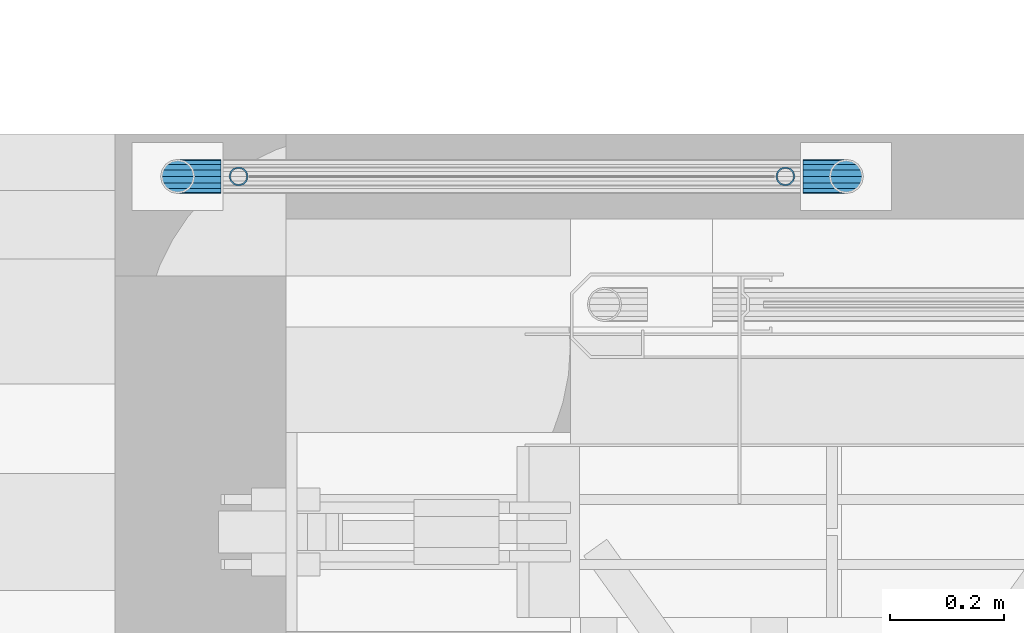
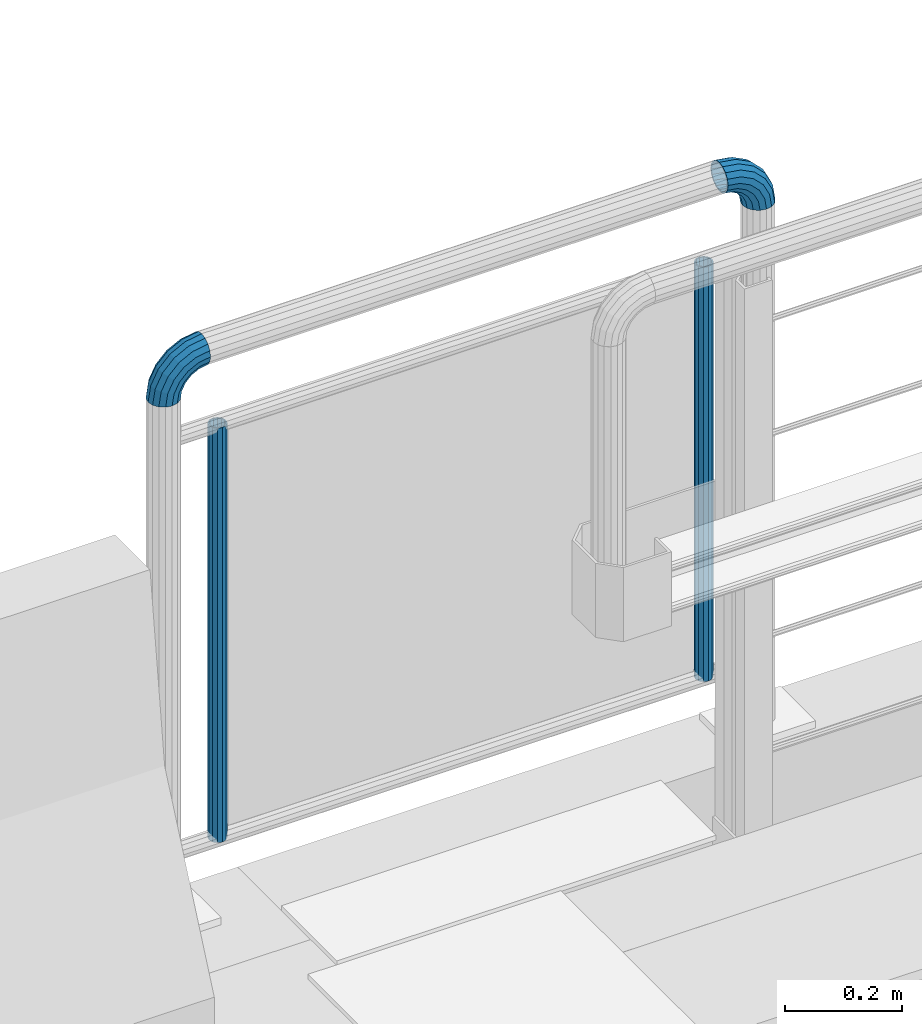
# One storey, part 22 of 31: 4 beams.
"""IFC2X3 building model written with IfcOpenShell, lengths in millimetres."""

from ifc_helpers import new_model, si_unit, frame, origin_with_axes, place, context, subcontext, project, spatial, faceted_brep, material, type_object, element, save


model = new_model("IFC2X3")

# Units and contexts
model_context = context("Model", 3, precision=1e-05, world=origin_with_axes())
body_context = subcontext(model_context, "Body", "Model", "MODEL_VIEW")
ifc_project = project(units=[si_unit("LENGTHUNIT", "METRE", prefix="MILLI"), si_unit("AREAUNIT", "SQUARE_METRE"), si_unit("VOLUMEUNIT", "CUBIC_METRE"), si_unit("MASSUNIT", "GRAM", prefix="KILO"), si_unit("TIMEUNIT", "SECOND"), si_unit("PLANEANGLEUNIT", "RADIAN"), si_unit("SOLIDANGLEUNIT", "STERADIAN"), si_unit("THERMODYNAMICTEMPERATUREUNIT", "DEGREE_CELSIUS"), si_unit("LUMINOUSINTENSITYUNIT", "LUMEN")], contexts=[model_context])

# Site, building, storey
site_placement = place(None, origin_with_axes())
site = spatial("IfcSite", under=ifc_project, at=site_placement, Name="Undefined", CompositionType="ELEMENT")
building_placement = place(site_placement, origin_with_axes())
building = spatial("IfcBuilding", under=site, at=building_placement, Name="Undefined", CompositionType="ELEMENT")
storey_placement = place(building_placement, origin_with_axes())
storey = spatial("IfcBuildingStorey", under=building, at=storey_placement, Name="Undefined", CompositionType="ELEMENT", Elevation=0.0)

# Beams
ifc_material = material(Name="STEEL/S355J2+N")
beam_type_1 = type_object("IfcBeamType", Name="CFCHS60.3*3.2", PredefinedType="NOTDEFINED")
beam_1_placement = place(storey_placement, frame((2486.0, 2925.0, 1169.85), z_axis=(-1.0, 0.0, 0.0), x_axis=(0.0, 0.0, -1.0)))
element("IfcBeam", 1, at=beam_1_placement, inside=storey, type_object=beam_type_1, material=ifc_material, Name="LKREKKVERK", context=body_context, shape_type="Brep", body=[
    faceted_brep([(11.5379054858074, -27.8549679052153, 0.0), (21.3192694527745, -21.3192694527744, 0.0), (23.9955348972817, -21.3192694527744, 16.8972750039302), (14.6929049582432, -27.8549679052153, 19.9198826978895), (31.7623597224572, -21.3192694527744, 32.1405270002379), (23.8490700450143, -27.8549679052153, 37.8898684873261), (43.8594729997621, -21.3192694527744, 44.2376402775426), (38.1101315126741, -27.8549679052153, 52.1509299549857), (59.10272499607, -21.3192694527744, 52.0044651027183), (56.0801173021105, -27.8549679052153, 61.3070950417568), (47.7010601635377, -11.5379054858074, 38.9501491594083), (61.1223668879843, -11.5379054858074, 45.7886465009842), (37.0498508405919, -11.5379054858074, 28.2989398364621), (30.2113534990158, -11.5379054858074, 14.8776331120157), (27.8549679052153, -11.5379054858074, 0.0), (30.1500000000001, 0.0, 0.0), (32.3940587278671, 0.0, 14.1684291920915), (38.9065708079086, 0.0, 26.9499538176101), (49.0500461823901, 0.0, 37.0934291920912), (61.8315708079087, 0.0, 43.6059412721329), (47.7010601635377, 11.5379054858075, 38.9501491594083), (61.1223668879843, 11.5379054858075, 45.7886465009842), (37.0498508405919, 11.5379054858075, 28.2989398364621), (30.2113534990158, 11.5379054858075, 14.8776331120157), (27.8549679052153, 11.5379054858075, 0.0), (21.3192694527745, 21.3192694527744, 0.0), (23.9955348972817, 21.3192694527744, 16.8972750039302), (31.7623597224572, 21.3192694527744, 32.1405270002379), (43.8594729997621, 21.3192694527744, 44.2376402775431), (59.10272499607, 21.3192694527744, 52.0044651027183), (38.1101315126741, 27.8549679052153, 52.1509299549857), (56.0801173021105, 27.8549679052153, 61.3070950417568), (23.8490700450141, 27.8549679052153, 37.8898684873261), (14.6929049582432, 27.8549679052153, 19.9198826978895), (11.5379054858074, 27.8549679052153, 0.0), (0.0, 30.15, 0.0), (3.71970476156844, 30.15, 23.485291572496), (14.514708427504, 30.15, 44.6716791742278), (31.3283208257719, 30.15, 61.485291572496), (52.514708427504, 30.15, 72.2802952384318), (24.54651013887, 27.8549679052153, 70.8196531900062), (48.9492995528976, 27.8549679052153, 83.2534954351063), (5.18034680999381, 27.8549679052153, 51.45348986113), (-7.25349543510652, 27.8549679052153, 27.0507004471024), (-11.5379054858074, 27.8549679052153, 0.0), (-21.3192694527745, 21.3192694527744, 0.0), (-16.556125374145, 21.3192694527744, 30.0733081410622), (-2.73294286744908, 21.3192694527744, 57.2028313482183), (18.7971686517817, 21.3192694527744, 78.7329428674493), (45.9266918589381, 21.3192694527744, 92.5561253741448), (14.9555814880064, 11.5379054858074, 84.0204339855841), (43.9070499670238, 11.5379054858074, 98.7719439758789), (-8.02043398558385, 11.5379054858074, 61.0444185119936), (-22.7719439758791, 11.5379054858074, 32.0929500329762), (-27.8549679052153, 11.5379054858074, 0.0), (-30.1500000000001, 0.0, 0.0), (-24.9546492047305, 0.0, 32.8021539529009), (-9.8771539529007, 0.0, 62.3934045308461), (13.6065954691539, 0.0, 85.8771539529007), (43.1978460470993, 0.0, 100.954649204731), (14.9555814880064, -11.5379054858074, 84.0204339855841), (43.9070499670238, -11.5379054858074, 98.7719439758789), (-8.02043398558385, -11.5379054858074, 61.0444185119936), (-22.7719439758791, -11.5379054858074, 32.0929500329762), (-27.8549679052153, -11.5379054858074, 0.0), (-21.3192694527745, -21.3192694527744, 0.0), (-16.556125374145, -21.3192694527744, 30.0733081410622), (-2.73294286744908, -21.3192694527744, 57.2028313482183), (18.7971686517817, -21.3192694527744, 78.7329428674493), (45.9266918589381, -21.3192694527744, 92.5561253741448), (24.54651013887, -27.8549679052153, 70.8196531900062), (48.9492995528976, -27.8549679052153, 83.2534954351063), (5.18034680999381, -27.8549679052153, 51.45348986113), (-7.25349543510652, -27.8549679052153, 27.0507004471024), (-11.5379054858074, -27.8549679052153, 0.0), (0.0, -30.15, 0.0), (3.71970476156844, -30.15, 23.485291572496), (14.514708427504, -30.15, 44.6716791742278), (31.3283208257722, -30.15, 61.485291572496), (52.514708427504, -30.15, 72.2802952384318), (76.0, -30.15, 76.0), (76.0, -27.8549679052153, 87.5379054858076), (76.0, -21.3192694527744, 97.3192694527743), (76.0, -11.5379054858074, 103.854967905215), (76.0, 0.0, 106.15), (76.0, 11.5379054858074, 103.854967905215), (76.0, 21.3192694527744, 97.3192694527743), (76.0, 27.8549679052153, 87.5379054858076), (76.0, 30.15, 76.0), (76.0, 27.8549679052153, 64.4620945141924), (76.0, 21.3192694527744, 54.6807305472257), (76.0, 11.5379054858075, 48.1450320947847), (76.0, 0.0, 45.8499999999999), (76.0, -11.5379054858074, 48.1450320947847), (76.0, -21.3192694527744, 54.6807305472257), (76.0, -27.8549679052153, 64.4620945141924), (10.3133185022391, -24.8985534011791, 0.0), (19.0565277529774, -19.0565277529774, 0.0), (24.8985534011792, -10.3133185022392, 0.0), (26.95, 0.0, 0.0), (24.8985534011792, 10.3133185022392, 0.0), (19.0565277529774, 19.0565277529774, 0.0), (10.3133185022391, 24.8985534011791, 0.0), (0.0, 26.95, 0.0), (-10.3133185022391, 24.8985534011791, 0.0), (-19.0565277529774, 19.0565277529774, 0.0), (-24.8985534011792, 10.3133185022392, 0.0), (-26.95, 0.0, 0.0), (-24.8985534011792, -10.3133185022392, 0.0), (-19.0565277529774, -19.0565277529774, 0.0), (-10.3133185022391, -24.8985534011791, 0.0), (0.0, -26.95, 0.0), (3.71970476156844, -26.95, 23.485291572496), (13.5282535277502, -24.8985534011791, 20.2983008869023), (21.8435396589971, -19.0565277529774, 17.5965006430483), (27.3996362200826, -10.3133185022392, 15.7912154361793), (29.3506778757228, 0.0, 15.1572835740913), (27.3996362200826, 10.3133185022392, 15.7912154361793), (21.8435396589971, 19.0565277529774, 17.5965006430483), (13.5282535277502, 24.8985534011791, 20.2983008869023), (3.71970476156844, 26.95, 23.485291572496), (-6.08884400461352, 24.8985534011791, 26.6722822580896), (-14.4041301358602, 19.0565277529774, 29.374082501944), (-19.9602266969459, 10.3133185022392, 31.1793677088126), (-21.9112683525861, 0.0, 31.8132995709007), (-19.9602266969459, -10.3133185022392, 31.1793677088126), (-14.4041301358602, -19.0565277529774, 29.374082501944), (-6.08884400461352, -24.8985534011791, 26.6722822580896), (6.17105849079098, -24.8985534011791, 50.7336956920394), (14.514708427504, -26.95, 44.6716791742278), (22.8583583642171, -24.8985534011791, 38.6096626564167), (29.9317632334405, -19.0565277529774, 33.4705332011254), (34.6580612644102, -10.3133185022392, 30.0366766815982), (36.3177164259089, 0.0, 28.8308666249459), (34.6580612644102, 10.3133185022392, 30.0366766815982), (29.9317632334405, 19.0565277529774, 33.4705332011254), (22.8583583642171, 24.8985534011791, 38.6096626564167), (14.514708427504, 26.95, 44.6716791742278), (6.17105849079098, 24.8985534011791, 50.7336956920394), (-0.90234637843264, 19.0565277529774, 55.8728251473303), (-5.62864440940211, 10.3133185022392, 59.3066816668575), (-7.28829957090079, 0.0, 60.5124917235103), (-5.62864440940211, -10.3133185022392, 59.3066816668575), (-0.90234637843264, -19.0565277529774, 55.8728251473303), (20.1271748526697, -19.0565277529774, 76.9023463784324), (25.2663043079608, -24.8985534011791, 69.828941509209), (31.3283208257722, -26.95, 61.485291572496), (37.3903373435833, -24.8985534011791, 53.1416416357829), (42.5294667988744, -19.0565277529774, 46.0682367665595), (45.9633233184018, -10.3133185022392, 41.3419387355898), (47.1691333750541, 0.0, 39.6822835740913), (45.9633233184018, 10.3133185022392, 41.3419387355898), (42.5294667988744, 19.0565277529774, 46.0682367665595), (37.3903373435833, 24.8985534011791, 53.1416416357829), (31.3283208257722, 26.95, 61.485291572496), (25.2663043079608, 24.8985534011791, 69.828941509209), (20.1271748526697, 19.0565277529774, 76.9023463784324), (16.6933183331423, 10.3133185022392, 81.6286444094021), (15.48750827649, 0.0, 83.288299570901), (16.6933183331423, -10.3133185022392, 81.6286444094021), (44.8206322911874, -10.3133185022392, 95.9602266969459), (46.6259174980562, -19.0565277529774, 90.4041301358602), (49.3277177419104, -24.8985534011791, 82.0888440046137), (52.514708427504, -26.95, 72.2802952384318), (55.7016991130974, -24.8985534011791, 62.4717464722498), (58.4034993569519, -19.0565277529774, 54.1564603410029), (60.2087845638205, -10.3133185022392, 48.6003637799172), (60.8427164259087, 0.0, 46.6493221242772), (60.2087845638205, 10.3133185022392, 48.6003637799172), (58.4034993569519, 19.0565277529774, 54.1564603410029), (55.7016991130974, 24.8985534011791, 62.4717464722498), (52.514708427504, 26.95, 72.2802952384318), (49.3277177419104, 24.8985534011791, 82.0888440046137), (46.6259174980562, 19.0565277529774, 90.4041301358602), (44.8206322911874, 10.3133185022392, 95.9602266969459), (44.1867004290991, 0.0, 97.9112683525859), (76.0, 0.0, 102.95), (76.0, -10.3133185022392, 100.898553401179), (76.0, -19.0565277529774, 95.0565277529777), (76.0, -24.8985534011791, 86.3133185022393), (76.0, -26.95, 76.0), (76.0, -24.8985534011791, 65.6866814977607), (76.0, -19.0565277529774, 56.9434722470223), (76.0, -10.3133185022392, 51.101446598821), (76.0, 0.0, 49.0500000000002), (76.0, 10.3133185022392, 51.101446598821), (76.0, 19.0565277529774, 56.9434722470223), (76.0, 24.8985534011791, 65.6866814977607), (76.0, 26.95, 76.0), (76.0, 24.8985534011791, 86.3133185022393), (76.0, 19.0565277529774, 95.0565277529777), (76.0, 10.3133185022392, 100.898553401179)], [[[0, 1, 2, 3]], [[3, 2, 4, 5]], [[5, 4, 6, 7]], [[7, 6, 8, 9]], [[6, 10, 11, 8]], [[4, 12, 10, 6]], [[2, 13, 12, 4]], [[1, 14, 13, 2]], [[14, 15, 16, 13]], [[13, 16, 17, 12]], [[12, 17, 18, 10]], [[10, 18, 19, 11]], [[18, 20, 21, 19]], [[17, 22, 20, 18]], [[16, 23, 22, 17]], [[15, 24, 23, 16]], [[24, 25, 26, 23]], [[23, 26, 27, 22]], [[22, 27, 28, 20]], [[20, 28, 29, 21]], [[28, 30, 31, 29]], [[27, 32, 30, 28]], [[26, 33, 32, 27]], [[25, 34, 33, 26]], [[34, 35, 36, 33]], [[33, 36, 37, 32]], [[32, 37, 38, 30]], [[30, 38, 39, 31]], [[38, 40, 41, 39]], [[37, 42, 40, 38]], [[36, 43, 42, 37]], [[35, 44, 43, 36]], [[44, 45, 46, 43]], [[43, 46, 47, 42]], [[42, 47, 48, 40]], [[40, 48, 49, 41]], [[48, 50, 51, 49]], [[47, 52, 50, 48]], [[46, 53, 52, 47]], [[45, 54, 53, 46]], [[54, 55, 56, 53]], [[53, 56, 57, 52]], [[52, 57, 58, 50]], [[50, 58, 59, 51]], [[58, 60, 61, 59]], [[57, 62, 60, 58]], [[56, 63, 62, 57]], [[55, 64, 63, 56]], [[64, 65, 66, 63]], [[63, 66, 67, 62]], [[62, 67, 68, 60]], [[60, 68, 69, 61]], [[68, 70, 71, 69]], [[67, 72, 70, 68]], [[66, 73, 72, 67]], [[65, 74, 73, 66]], [[74, 75, 76, 73]], [[73, 76, 77, 72]], [[72, 77, 78, 70]], [[70, 78, 79, 71]], [[71, 79, 80, 81]], [[69, 71, 81, 82]], [[61, 69, 82, 83]], [[59, 61, 83, 84]], [[51, 59, 84, 85]], [[49, 51, 85, 86]], [[41, 49, 86, 87]], [[39, 41, 87, 88]], [[31, 39, 88, 89]], [[29, 31, 89, 90]], [[21, 29, 90, 91]], [[19, 21, 91, 92]], [[11, 19, 92, 93]], [[8, 11, 93, 94]], [[9, 8, 94, 95]], [[79, 9, 95, 80]], [[78, 7, 9, 79]], [[77, 5, 7, 78]], [[76, 3, 5, 77]], [[75, 0, 3, 76]], [[74, 65, 64, 55, 54, 45, 44, 35, 34, 25, 24, 15, 14, 1, 0, 75], [96, 97, 98, 99, 100, 101, 102, 103, 104, 105, 106, 107, 108, 109, 110, 111]], [[96, 111, 112, 113]], [[97, 96, 113, 114]], [[98, 97, 114, 115]], [[99, 98, 115, 116]], [[100, 99, 116, 117]], [[101, 100, 117, 118]], [[102, 101, 118, 119]], [[103, 102, 119, 120]], [[104, 103, 120, 121]], [[105, 104, 121, 122]], [[106, 105, 122, 123]], [[107, 106, 123, 124]], [[108, 107, 124, 125]], [[109, 108, 125, 126]], [[110, 109, 126, 127]], [[111, 110, 127, 112]], [[112, 127, 128, 129]], [[113, 112, 129, 130]], [[114, 113, 130, 131]], [[115, 114, 131, 132]], [[116, 115, 132, 133]], [[117, 116, 133, 134]], [[118, 117, 134, 135]], [[119, 118, 135, 136]], [[120, 119, 136, 137]], [[121, 120, 137, 138]], [[122, 121, 138, 139]], [[123, 122, 139, 140]], [[124, 123, 140, 141]], [[125, 124, 141, 142]], [[126, 125, 142, 143]], [[127, 126, 143, 128]], [[128, 143, 144, 145]], [[129, 128, 145, 146]], [[130, 129, 146, 147]], [[131, 130, 147, 148]], [[132, 131, 148, 149]], [[133, 132, 149, 150]], [[134, 133, 150, 151]], [[135, 134, 151, 152]], [[136, 135, 152, 153]], [[137, 136, 153, 154]], [[138, 137, 154, 155]], [[139, 138, 155, 156]], [[140, 139, 156, 157]], [[141, 140, 157, 158]], [[142, 141, 158, 159]], [[143, 142, 159, 144]], [[144, 159, 160, 161]], [[145, 144, 161, 162]], [[146, 145, 162, 163]], [[147, 146, 163, 164]], [[148, 147, 164, 165]], [[149, 148, 165, 166]], [[150, 149, 166, 167]], [[151, 150, 167, 168]], [[152, 151, 168, 169]], [[153, 152, 169, 170]], [[154, 153, 170, 171]], [[155, 154, 171, 172]], [[156, 155, 172, 173]], [[157, 156, 173, 174]], [[158, 157, 174, 175]], [[159, 158, 175, 160]], [[160, 175, 176, 177]], [[161, 160, 177, 178]], [[162, 161, 178, 179]], [[163, 162, 179, 180]], [[164, 163, 180, 181]], [[165, 164, 181, 182]], [[166, 165, 182, 183]], [[167, 166, 183, 184]], [[168, 167, 184, 185]], [[169, 168, 185, 186]], [[170, 169, 186, 187]], [[171, 170, 187, 188]], [[172, 171, 188, 189]], [[173, 172, 189, 190]], [[174, 173, 190, 191]], [[175, 174, 191, 176]], [[82, 81, 80, 95, 94, 93, 92, 91, 90, 89, 88, 87, 86, 85, 84, 83], [190, 189, 188, 187, 186, 185, 184, 183, 182, 181, 180, 179, 178, 177, 176, 191]]]),
])
beam_2_placement = place(storey_placement, frame((3509.15, 2925.0, 1169.85), z_axis=(1.0, 0.0, 0.0), x_axis=(0.0, 0.0, -1.0)))
element("IfcBeam", 2, at=beam_2_placement, inside=storey, type_object=beam_type_1, material=ifc_material, Name="LKREKKVERK", context=body_context, shape_type="Brep", body=[
    faceted_brep([(11.5379054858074, -27.8549679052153, 0.0), (21.3192694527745, -21.3192694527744, 0.0), (23.9955348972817, -21.3192694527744, 16.8972750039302), (14.6929049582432, -27.8549679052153, 19.9198826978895), (31.7623597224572, -21.3192694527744, 32.1405270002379), (23.8490700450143, -27.8549679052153, 37.8898684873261), (43.8594729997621, -21.3192694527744, 44.2376402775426), (38.1101315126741, -27.8549679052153, 52.1509299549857), (59.10272499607, -21.3192694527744, 52.0044651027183), (56.0801173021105, -27.8549679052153, 61.3070950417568), (47.7010601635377, -11.5379054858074, 38.9501491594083), (61.1223668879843, -11.5379054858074, 45.7886465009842), (37.0498508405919, -11.5379054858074, 28.2989398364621), (30.2113534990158, -11.5379054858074, 14.8776331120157), (27.8549679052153, -11.5379054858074, 0.0), (30.1500000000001, 0.0, 0.0), (32.3940587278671, 0.0, 14.1684291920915), (38.9065708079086, 0.0, 26.9499538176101), (49.0500461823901, 0.0, 37.0934291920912), (61.8315708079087, 0.0, 43.6059412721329), (47.7010601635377, 11.5379054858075, 38.9501491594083), (61.1223668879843, 11.5379054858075, 45.7886465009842), (37.0498508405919, 11.5379054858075, 28.2989398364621), (30.2113534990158, 11.5379054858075, 14.8776331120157), (27.8549679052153, 11.5379054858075, 0.0), (21.3192694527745, 21.3192694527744, 0.0), (23.9955348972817, 21.3192694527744, 16.8972750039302), (31.7623597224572, 21.3192694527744, 32.1405270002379), (43.8594729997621, 21.3192694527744, 44.2376402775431), (59.10272499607, 21.3192694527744, 52.0044651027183), (38.1101315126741, 27.8549679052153, 52.1509299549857), (56.0801173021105, 27.8549679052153, 61.3070950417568), (23.8490700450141, 27.8549679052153, 37.8898684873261), (14.6929049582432, 27.8549679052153, 19.9198826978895), (11.5379054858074, 27.8549679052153, 0.0), (0.0, 30.15, 0.0), (3.71970476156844, 30.15, 23.485291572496), (14.514708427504, 30.15, 44.6716791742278), (31.3283208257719, 30.15, 61.485291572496), (52.514708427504, 30.15, 72.2802952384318), (24.54651013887, 27.8549679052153, 70.8196531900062), (48.9492995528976, 27.8549679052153, 83.2534954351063), (5.18034680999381, 27.8549679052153, 51.45348986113), (-7.25349543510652, 27.8549679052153, 27.0507004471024), (-11.5379054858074, 27.8549679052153, 0.0), (-21.3192694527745, 21.3192694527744, 0.0), (-16.556125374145, 21.3192694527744, 30.0733081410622), (-2.73294286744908, 21.3192694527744, 57.2028313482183), (18.7971686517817, 21.3192694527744, 78.7329428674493), (45.9266918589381, 21.3192694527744, 92.5561253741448), (14.9555814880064, 11.5379054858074, 84.0204339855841), (43.9070499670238, 11.5379054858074, 98.7719439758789), (-8.02043398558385, 11.5379054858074, 61.0444185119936), (-22.7719439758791, 11.5379054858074, 32.0929500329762), (-27.8549679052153, 11.5379054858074, 0.0), (-30.1500000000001, 0.0, 0.0), (-24.9546492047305, 0.0, 32.8021539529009), (-9.8771539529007, 0.0, 62.3934045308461), (13.6065954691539, 0.0, 85.8771539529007), (43.1978460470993, 0.0, 100.954649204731), (14.9555814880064, -11.5379054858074, 84.0204339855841), (43.9070499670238, -11.5379054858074, 98.7719439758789), (-8.02043398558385, -11.5379054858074, 61.0444185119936), (-22.7719439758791, -11.5379054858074, 32.0929500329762), (-27.8549679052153, -11.5379054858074, 0.0), (-21.3192694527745, -21.3192694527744, 0.0), (-16.556125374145, -21.3192694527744, 30.0733081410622), (-2.73294286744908, -21.3192694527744, 57.2028313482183), (18.7971686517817, -21.3192694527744, 78.7329428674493), (45.9266918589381, -21.3192694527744, 92.5561253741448), (24.54651013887, -27.8549679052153, 70.8196531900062), (48.9492995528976, -27.8549679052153, 83.2534954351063), (5.18034680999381, -27.8549679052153, 51.45348986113), (-7.25349543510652, -27.8549679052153, 27.0507004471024), (-11.5379054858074, -27.8549679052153, 0.0), (0.0, -30.15, 0.0), (3.71970476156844, -30.15, 23.485291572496), (14.514708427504, -30.15, 44.6716791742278), (31.3283208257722, -30.15, 61.485291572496), (52.514708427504, -30.15, 72.2802952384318), (76.0, -30.15, 76.0), (76.0, -27.8549679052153, 87.5379054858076), (76.0, -21.3192694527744, 97.3192694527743), (76.0, -11.5379054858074, 103.854967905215), (76.0, 0.0, 106.15), (76.0, 11.5379054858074, 103.854967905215), (76.0, 21.3192694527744, 97.3192694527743), (76.0, 27.8549679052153, 87.5379054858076), (76.0, 30.15, 76.0), (76.0, 27.8549679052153, 64.4620945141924), (76.0, 21.3192694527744, 54.6807305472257), (76.0, 11.5379054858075, 48.1450320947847), (76.0, 0.0, 45.8499999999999), (76.0, -11.5379054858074, 48.1450320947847), (76.0, -21.3192694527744, 54.6807305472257), (76.0, -27.8549679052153, 64.4620945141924), (10.3133185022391, -24.8985534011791, 0.0), (19.0565277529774, -19.0565277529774, 0.0), (24.8985534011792, -10.3133185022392, 0.0), (26.95, 0.0, 0.0), (24.8985534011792, 10.3133185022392, 0.0), (19.0565277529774, 19.0565277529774, 0.0), (10.3133185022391, 24.8985534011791, 0.0), (0.0, 26.95, 0.0), (-10.3133185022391, 24.8985534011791, 0.0), (-19.0565277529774, 19.0565277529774, 0.0), (-24.8985534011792, 10.3133185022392, 0.0), (-26.95, 0.0, 0.0), (-24.8985534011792, -10.3133185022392, 0.0), (-19.0565277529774, -19.0565277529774, 0.0), (-10.3133185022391, -24.8985534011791, 0.0), (0.0, -26.95, 0.0), (3.71970476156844, -26.95, 23.485291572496), (13.5282535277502, -24.8985534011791, 20.2983008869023), (21.8435396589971, -19.0565277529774, 17.5965006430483), (27.3996362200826, -10.3133185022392, 15.7912154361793), (29.3506778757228, 0.0, 15.1572835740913), (27.3996362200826, 10.3133185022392, 15.7912154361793), (21.8435396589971, 19.0565277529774, 17.5965006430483), (13.5282535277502, 24.8985534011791, 20.2983008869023), (3.71970476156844, 26.95, 23.485291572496), (-6.08884400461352, 24.8985534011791, 26.6722822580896), (-14.4041301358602, 19.0565277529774, 29.374082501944), (-19.9602266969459, 10.3133185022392, 31.1793677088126), (-21.9112683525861, 0.0, 31.8132995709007), (-19.9602266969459, -10.3133185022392, 31.1793677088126), (-14.4041301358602, -19.0565277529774, 29.374082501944), (-6.08884400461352, -24.8985534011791, 26.6722822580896), (6.17105849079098, -24.8985534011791, 50.7336956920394), (14.514708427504, -26.95, 44.6716791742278), (22.8583583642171, -24.8985534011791, 38.6096626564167), (29.9317632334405, -19.0565277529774, 33.4705332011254), (34.6580612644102, -10.3133185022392, 30.0366766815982), (36.3177164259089, 0.0, 28.8308666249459), (34.6580612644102, 10.3133185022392, 30.0366766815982), (29.9317632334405, 19.0565277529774, 33.4705332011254), (22.8583583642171, 24.8985534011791, 38.6096626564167), (14.514708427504, 26.95, 44.6716791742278), (6.17105849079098, 24.8985534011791, 50.7336956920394), (-0.90234637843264, 19.0565277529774, 55.8728251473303), (-5.62864440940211, 10.3133185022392, 59.3066816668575), (-7.28829957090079, 0.0, 60.5124917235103), (-5.62864440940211, -10.3133185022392, 59.3066816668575), (-0.90234637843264, -19.0565277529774, 55.8728251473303), (20.1271748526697, -19.0565277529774, 76.9023463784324), (25.2663043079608, -24.8985534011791, 69.828941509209), (31.3283208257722, -26.95, 61.485291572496), (37.3903373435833, -24.8985534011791, 53.1416416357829), (42.5294667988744, -19.0565277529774, 46.0682367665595), (45.9633233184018, -10.3133185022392, 41.3419387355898), (47.1691333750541, 0.0, 39.6822835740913), (45.9633233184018, 10.3133185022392, 41.3419387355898), (42.5294667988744, 19.0565277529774, 46.0682367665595), (37.3903373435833, 24.8985534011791, 53.1416416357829), (31.3283208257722, 26.95, 61.485291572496), (25.2663043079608, 24.8985534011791, 69.828941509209), (20.1271748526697, 19.0565277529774, 76.9023463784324), (16.6933183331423, 10.3133185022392, 81.6286444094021), (15.48750827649, 0.0, 83.288299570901), (16.6933183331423, -10.3133185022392, 81.6286444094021), (44.8206322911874, -10.3133185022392, 95.9602266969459), (46.6259174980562, -19.0565277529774, 90.4041301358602), (49.3277177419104, -24.8985534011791, 82.0888440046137), (52.514708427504, -26.95, 72.2802952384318), (55.7016991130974, -24.8985534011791, 62.4717464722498), (58.4034993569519, -19.0565277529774, 54.1564603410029), (60.2087845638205, -10.3133185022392, 48.6003637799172), (60.8427164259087, 0.0, 46.6493221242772), (60.2087845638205, 10.3133185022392, 48.6003637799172), (58.4034993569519, 19.0565277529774, 54.1564603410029), (55.7016991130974, 24.8985534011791, 62.4717464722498), (52.514708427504, 26.95, 72.2802952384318), (49.3277177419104, 24.8985534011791, 82.0888440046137), (46.6259174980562, 19.0565277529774, 90.4041301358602), (44.8206322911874, 10.3133185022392, 95.9602266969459), (44.1867004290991, 0.0, 97.9112683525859), (76.0, 0.0, 102.95), (76.0, -10.3133185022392, 100.898553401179), (76.0, -19.0565277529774, 95.0565277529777), (76.0, -24.8985534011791, 86.3133185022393), (76.0, -26.95, 76.0), (76.0, -24.8985534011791, 65.6866814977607), (76.0, -19.0565277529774, 56.9434722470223), (76.0, -10.3133185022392, 51.101446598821), (76.0, 0.0, 49.0500000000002), (76.0, 10.3133185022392, 51.101446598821), (76.0, 19.0565277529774, 56.9434722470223), (76.0, 24.8985534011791, 65.6866814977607), (76.0, 26.95, 76.0), (76.0, 24.8985534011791, 86.3133185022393), (76.0, 19.0565277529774, 95.0565277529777), (76.0, 10.3133185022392, 100.898553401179)], [[[0, 1, 2, 3]], [[3, 2, 4, 5]], [[5, 4, 6, 7]], [[7, 6, 8, 9]], [[6, 10, 11, 8]], [[4, 12, 10, 6]], [[2, 13, 12, 4]], [[1, 14, 13, 2]], [[14, 15, 16, 13]], [[13, 16, 17, 12]], [[12, 17, 18, 10]], [[10, 18, 19, 11]], [[18, 20, 21, 19]], [[17, 22, 20, 18]], [[16, 23, 22, 17]], [[15, 24, 23, 16]], [[24, 25, 26, 23]], [[23, 26, 27, 22]], [[22, 27, 28, 20]], [[20, 28, 29, 21]], [[28, 30, 31, 29]], [[27, 32, 30, 28]], [[26, 33, 32, 27]], [[25, 34, 33, 26]], [[34, 35, 36, 33]], [[33, 36, 37, 32]], [[32, 37, 38, 30]], [[30, 38, 39, 31]], [[38, 40, 41, 39]], [[37, 42, 40, 38]], [[36, 43, 42, 37]], [[35, 44, 43, 36]], [[44, 45, 46, 43]], [[43, 46, 47, 42]], [[42, 47, 48, 40]], [[40, 48, 49, 41]], [[48, 50, 51, 49]], [[47, 52, 50, 48]], [[46, 53, 52, 47]], [[45, 54, 53, 46]], [[54, 55, 56, 53]], [[53, 56, 57, 52]], [[52, 57, 58, 50]], [[50, 58, 59, 51]], [[58, 60, 61, 59]], [[57, 62, 60, 58]], [[56, 63, 62, 57]], [[55, 64, 63, 56]], [[64, 65, 66, 63]], [[63, 66, 67, 62]], [[62, 67, 68, 60]], [[60, 68, 69, 61]], [[68, 70, 71, 69]], [[67, 72, 70, 68]], [[66, 73, 72, 67]], [[65, 74, 73, 66]], [[74, 75, 76, 73]], [[73, 76, 77, 72]], [[72, 77, 78, 70]], [[70, 78, 79, 71]], [[71, 79, 80, 81]], [[69, 71, 81, 82]], [[61, 69, 82, 83]], [[59, 61, 83, 84]], [[51, 59, 84, 85]], [[49, 51, 85, 86]], [[41, 49, 86, 87]], [[39, 41, 87, 88]], [[31, 39, 88, 89]], [[29, 31, 89, 90]], [[21, 29, 90, 91]], [[19, 21, 91, 92]], [[11, 19, 92, 93]], [[8, 11, 93, 94]], [[9, 8, 94, 95]], [[79, 9, 95, 80]], [[78, 7, 9, 79]], [[77, 5, 7, 78]], [[76, 3, 5, 77]], [[75, 0, 3, 76]], [[74, 65, 64, 55, 54, 45, 44, 35, 34, 25, 24, 15, 14, 1, 0, 75], [96, 97, 98, 99, 100, 101, 102, 103, 104, 105, 106, 107, 108, 109, 110, 111]], [[96, 111, 112, 113]], [[97, 96, 113, 114]], [[98, 97, 114, 115]], [[99, 98, 115, 116]], [[100, 99, 116, 117]], [[101, 100, 117, 118]], [[102, 101, 118, 119]], [[103, 102, 119, 120]], [[104, 103, 120, 121]], [[105, 104, 121, 122]], [[106, 105, 122, 123]], [[107, 106, 123, 124]], [[108, 107, 124, 125]], [[109, 108, 125, 126]], [[110, 109, 126, 127]], [[111, 110, 127, 112]], [[112, 127, 128, 129]], [[113, 112, 129, 130]], [[114, 113, 130, 131]], [[115, 114, 131, 132]], [[116, 115, 132, 133]], [[117, 116, 133, 134]], [[118, 117, 134, 135]], [[119, 118, 135, 136]], [[120, 119, 136, 137]], [[121, 120, 137, 138]], [[122, 121, 138, 139]], [[123, 122, 139, 140]], [[124, 123, 140, 141]], [[125, 124, 141, 142]], [[126, 125, 142, 143]], [[127, 126, 143, 128]], [[128, 143, 144, 145]], [[129, 128, 145, 146]], [[130, 129, 146, 147]], [[131, 130, 147, 148]], [[132, 131, 148, 149]], [[133, 132, 149, 150]], [[134, 133, 150, 151]], [[135, 134, 151, 152]], [[136, 135, 152, 153]], [[137, 136, 153, 154]], [[138, 137, 154, 155]], [[139, 138, 155, 156]], [[140, 139, 156, 157]], [[141, 140, 157, 158]], [[142, 141, 158, 159]], [[143, 142, 159, 144]], [[144, 159, 160, 161]], [[145, 144, 161, 162]], [[146, 145, 162, 163]], [[147, 146, 163, 164]], [[148, 147, 164, 165]], [[149, 148, 165, 166]], [[150, 149, 166, 167]], [[151, 150, 167, 168]], [[152, 151, 168, 169]], [[153, 152, 169, 170]], [[154, 153, 170, 171]], [[155, 154, 171, 172]], [[156, 155, 172, 173]], [[157, 156, 173, 174]], [[158, 157, 174, 175]], [[159, 158, 175, 160]], [[160, 175, 176, 177]], [[161, 160, 177, 178]], [[162, 161, 178, 179]], [[163, 162, 179, 180]], [[164, 163, 180, 181]], [[165, 164, 181, 182]], [[166, 165, 182, 183]], [[167, 166, 183, 184]], [[168, 167, 184, 185]], [[169, 168, 185, 186]], [[170, 169, 186, 187]], [[171, 170, 187, 188]], [[172, 171, 188, 189]], [[173, 172, 189, 190]], [[174, 173, 190, 191]], [[175, 174, 191, 176]], [[82, 81, 80, 95, 94, 93, 92, 91, 90, 89, 88, 87, 86, 85, 84, 83], [190, 189, 188, 187, 186, 185, 184, 183, 182, 181, 180, 179, 178, 177, 176, 191]]]),
])
beam_type_2 = type_object("IfcBeamType", Name="CFCHS33.7*2.6", PredefinedType="NOTDEFINED")
beam_3_placement = place(storey_placement, frame((2517.0, 2925.0, 1003.15), z_axis=(0.0, 1.0, 0.0), x_axis=(0.0, 0.0, -1.0)))
element("IfcBeam", 3, at=beam_3_placement, inside=storey, type_object=beam_type_2, material=ifc_material, Name="LKBRØYTETETTPANEL", context=body_context, shape_type="Brep", body=[
    faceted_brep([(0.0, -14.25, 0.0), (0.0, -12.3408620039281, 7.125), (866.3, -12.3408620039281, 7.125), (866.3, -14.25, 0.0), (0.0, -7.125, 12.3408620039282), (866.3, -7.125, 12.3408620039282), (0.0, 0.0, 14.25), (866.3, 0.0, 14.25), (0.0, 7.125, 12.3408620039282), (866.3, 7.125, 12.3408620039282), (0.0, 12.3408620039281, 7.125), (866.3, 12.3408620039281, 7.125), (0.0, 14.25, 0.0), (866.3, 14.25, 0.0), (0.0, 12.3408620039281, -7.125), (866.3, 12.3408620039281, -7.125), (0.0, 7.125, -12.3408620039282), (866.3, 7.125, -12.3408620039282), (0.0, 0.0, -14.25), (866.3, 0.0, -14.25), (0.0, -7.125, -12.3408620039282), (866.3, -7.125, -12.3408620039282), (0.0, -12.3408620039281, -7.125), (866.3, -12.3408620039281, -7.125), (0.0, -16.8499999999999, 0.0), (0.0, -14.5925280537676, -8.42499999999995), (866.3, -14.5925280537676, -8.42499999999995), (866.3, -16.8499999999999, 0.0), (0.0, -8.42500000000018, -14.5925280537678), (866.3, -8.42500000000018, -14.5925280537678), (0.0, 0.0, -16.85), (866.3, 0.0, -16.85), (0.0, 8.42500000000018, -14.5925280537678), (866.3, 8.42500000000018, -14.5925280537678), (0.0, 14.5925280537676, -8.42499999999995), (866.3, 14.5925280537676, -8.42499999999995), (0.0, 16.8499999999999, 0.0), (866.3, 16.8499999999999, 0.0), (0.0, 14.5925280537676, 8.42499999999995), (866.3, 14.5925280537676, 8.42499999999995), (0.0, 8.42500000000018, 14.5925280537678), (866.3, 8.42500000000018, 14.5925280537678), (0.0, 0.0, 16.85), (866.3, 0.0, 16.85), (0.0, -8.42500000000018, 14.5925280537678), (866.3, -8.42500000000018, 14.5925280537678), (0.0, -14.5925280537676, 8.42499999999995), (866.3, -14.5925280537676, 8.42499999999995)], [[[0, 1, 2, 3]], [[1, 4, 5, 2]], [[4, 6, 7, 5]], [[6, 8, 9, 7]], [[8, 10, 11, 9]], [[10, 12, 13, 11]], [[12, 14, 15, 13]], [[14, 16, 17, 15]], [[16, 18, 19, 17]], [[18, 20, 21, 19]], [[20, 22, 23, 21]], [[22, 0, 3, 23]], [[24, 25, 26, 27]], [[25, 28, 29, 26]], [[28, 30, 31, 29]], [[30, 32, 33, 31]], [[32, 34, 35, 33]], [[34, 36, 37, 35]], [[36, 38, 39, 37]], [[38, 40, 41, 39]], [[40, 42, 43, 41]], [[42, 44, 45, 43]], [[44, 46, 47, 45]], [[46, 24, 27, 47]], [[29, 31, 33, 35, 37, 39, 41, 43, 45, 47, 27, 26], [5, 7, 9, 11, 13, 15, 17, 19, 21, 23, 3, 2]], [[46, 44, 42, 40, 38, 36, 34, 32, 30, 28, 25, 24], [22, 20, 18, 16, 14, 12, 10, 8, 6, 4, 1, 0]]]),
])
beam_4_placement = place(storey_placement, frame((3478.15, 2925.0, 1003.15), z_axis=(0.0, 1.0, 0.0), x_axis=(0.0, 0.0, -1.0)))
element("IfcBeam", 4, at=beam_4_placement, inside=storey, type_object=beam_type_2, material=ifc_material, Name="LKBRØYTETETTPANEL", context=body_context, shape_type="Brep", body=[
    faceted_brep([(0.0, -14.25, 0.0), (0.0, -12.3408620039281, 7.125), (866.3, -12.3408620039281, 7.125), (866.3, -14.25, 0.0), (0.0, -7.125, 12.3408620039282), (866.3, -7.125, 12.3408620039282), (0.0, 0.0, 14.25), (866.3, 0.0, 14.25), (0.0, 7.125, 12.3408620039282), (866.3, 7.125, 12.3408620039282), (0.0, 12.3408620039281, 7.125), (866.3, 12.3408620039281, 7.125), (0.0, 14.25, 0.0), (866.3, 14.25, 0.0), (0.0, 12.3408620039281, -7.125), (866.3, 12.3408620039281, -7.125), (0.0, 7.125, -12.3408620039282), (866.3, 7.125, -12.3408620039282), (0.0, 0.0, -14.25), (866.3, 0.0, -14.25), (0.0, -7.125, -12.3408620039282), (866.3, -7.125, -12.3408620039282), (0.0, -12.3408620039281, -7.125), (866.3, -12.3408620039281, -7.125), (0.0, -16.8499999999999, 0.0), (0.0, -14.5925280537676, -8.42499999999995), (866.3, -14.5925280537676, -8.42499999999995), (866.3, -16.8499999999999, 0.0), (0.0, -8.42500000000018, -14.5925280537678), (866.3, -8.42500000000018, -14.5925280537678), (0.0, 0.0, -16.85), (866.3, 0.0, -16.85), (0.0, 8.42500000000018, -14.5925280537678), (866.3, 8.42500000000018, -14.5925280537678), (0.0, 14.5925280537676, -8.42499999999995), (866.3, 14.5925280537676, -8.42499999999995), (0.0, 16.8499999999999, 0.0), (866.3, 16.8499999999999, 0.0), (0.0, 14.5925280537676, 8.42499999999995), (866.3, 14.5925280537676, 8.42499999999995), (0.0, 8.42500000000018, 14.5925280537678), (866.3, 8.42500000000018, 14.5925280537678), (0.0, 0.0, 16.85), (866.3, 0.0, 16.85), (0.0, -8.42500000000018, 14.5925280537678), (866.3, -8.42500000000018, 14.5925280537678), (0.0, -14.5925280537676, 8.42499999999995), (866.3, -14.5925280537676, 8.42499999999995)], [[[0, 1, 2, 3]], [[1, 4, 5, 2]], [[4, 6, 7, 5]], [[6, 8, 9, 7]], [[8, 10, 11, 9]], [[10, 12, 13, 11]], [[12, 14, 15, 13]], [[14, 16, 17, 15]], [[16, 18, 19, 17]], [[18, 20, 21, 19]], [[20, 22, 23, 21]], [[22, 0, 3, 23]], [[24, 25, 26, 27]], [[25, 28, 29, 26]], [[28, 30, 31, 29]], [[30, 32, 33, 31]], [[32, 34, 35, 33]], [[34, 36, 37, 35]], [[36, 38, 39, 37]], [[38, 40, 41, 39]], [[40, 42, 43, 41]], [[42, 44, 45, 43]], [[44, 46, 47, 45]], [[46, 24, 27, 47]], [[29, 31, 33, 35, 37, 39, 41, 43, 45, 47, 27, 26], [5, 7, 9, 11, 13, 15, 17, 19, 21, 23, 3, 2]], [[46, 44, 42, 40, 38, 36, 34, 32, 30, 28, 25, 24], [22, 20, 18, 16, 14, 12, 10, 8, 6, 4, 1, 0]]]),
])

save(model, "model.ifc")
